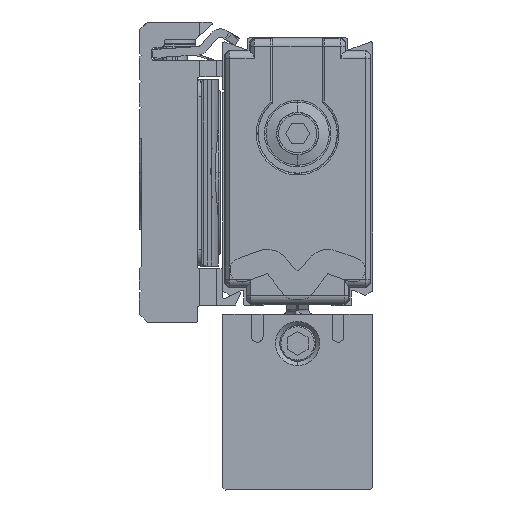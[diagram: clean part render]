
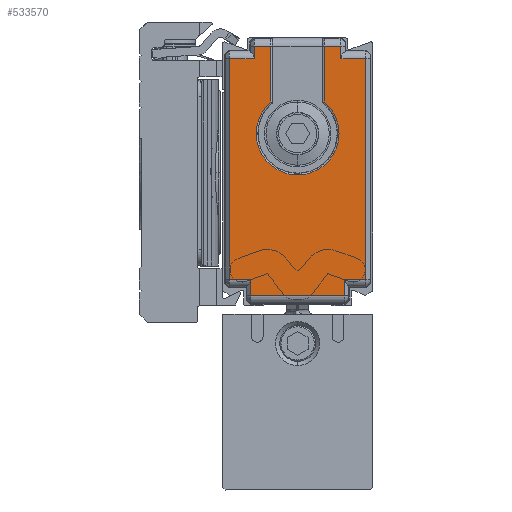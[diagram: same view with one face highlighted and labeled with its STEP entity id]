
A CAD part, left-side view. The second image highlights one B-rep face of the part: STEP entity #533570.
In plain terms, the highlighted planar face has unit normal (-1, 0, 0) as drawn and (0, 0, -1) by its records, which use the part's own axes.
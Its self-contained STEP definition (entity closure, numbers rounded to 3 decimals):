
#531480=CARTESIAN_POINT('',(29.865,18.802,-494.5));
#531490=VERTEX_POINT('',#531480);
#531940=CARTESIAN_POINT('',(3.435,18.802,-494.5));
#531950=VERTEX_POINT('',#531940);
#532000=CARTESIAN_POINT('',(3.435,18.802,-494.5));
#532010=CARTESIAN_POINT('',(7.84,18.802,-494.5));
#532020=CARTESIAN_POINT('',(12.245,18.802,-494.5));
#532030=CARTESIAN_POINT('',(21.055,18.802,-494.5));
#532040=CARTESIAN_POINT('',(25.46,18.802,-494.5));
#532050=CARTESIAN_POINT('',(29.865,18.802,-494.5));
#532060=B_SPLINE_CURVE_WITH_KNOTS('',3,(#532000,#532010,#532020,#532030,
#532040,#532050),.UNSPECIFIED.,.F.,.F.,(4,2,4),(24.334,
37.549,50.764),.UNSPECIFIED.);
#532070=EDGE_CURVE('',#531950,#531490,#532060,.T.);
#532190=CARTESIAN_POINT('',(16.65,27.,-494.5));
#532200=DIRECTION('',(0.,0.,1.));
#532210=DIRECTION('',(0.,1.,0.));
#532220=AXIS2_PLACEMENT_3D('',#532190,#532200,#532210);
#532230=PLANE('',#532220);
#532240=CARTESIAN_POINT('',(20.9,27.,-494.5));
#532250=DIRECTION('',(0.,0.,-1.));
#532260=DIRECTION('',(0.,1.,0.));
#532270=AXIS2_PLACEMENT_3D('',#532240,#532250,#532260);
#532280=CIRCLE('',#532270,4.974);
#532290=CARTESIAN_POINT('',(24.688,23.776,-494.5));
#532300=VERTEX_POINT('',#532290);
#532310=CARTESIAN_POINT('',(24.688,30.224,-494.5));
#532320=VERTEX_POINT('',#532310);
#532330=EDGE_CURVE('',#532300,#532320,#532280,.T.);
#532340=ORIENTED_EDGE('',*,*,#532330,.F.);
#532350=CARTESIAN_POINT('',(0.15,30.224,-494.5));
#532360=DIRECTION('',(1.,0.,0.));
#532370=VECTOR('',#532360,1.);
#532380=LINE('',#532350,#532370);
#532390=CARTESIAN_POINT('',(31.365,30.224,-494.5));
#532400=VERTEX_POINT('',#532390);
#532410=EDGE_CURVE('',#532320,#532400,#532380,.T.);
#532420=ORIENTED_EDGE('',*,*,#532410,.F.);
#532430=CARTESIAN_POINT('',(31.365,35.75,-494.5));
#532440=DIRECTION('',(0.,-1.,0.));
#532450=VECTOR('',#532440,1.);
#532460=LINE('',#532430,#532450);
#532470=CARTESIAN_POINT('',(31.365,32.198,-494.5));
#532480=VERTEX_POINT('',#532470);
#532490=EDGE_CURVE('',#532480,#532400,#532460,.T.);
#532500=ORIENTED_EDGE('',*,*,#532490,.T.);
#532510=CARTESIAN_POINT('',(29.365,32.198,-494.5));
#532520=CARTESIAN_POINT('',(29.782,32.198,-494.5));
#532530=CARTESIAN_POINT('',(30.198,32.198,-494.5));
#532540=CARTESIAN_POINT('',(30.865,32.198,-494.5));
#532550=CARTESIAN_POINT('',(31.115,32.198,-494.5));
#532560=CARTESIAN_POINT('',(31.365,32.198,-494.5));
#532570=B_SPLINE_CURVE_WITH_KNOTS('',3,(#532510,#532520,#532530,#532540,
#532550,#532560),.UNSPECIFIED.,.F.,.F.,(4,2,4),(37.587,
38.837,39.587),.UNSPECIFIED.);
#532580=CARTESIAN_POINT('',(29.865,32.198,-494.5));
#532590=VERTEX_POINT('',#532580);
#532600=EDGE_CURVE('',#532590,#532480,#532570,.T.);
#532610=ORIENTED_EDGE('',*,*,#532600,.T.);
#532620=CARTESIAN_POINT('',(29.865,35.75,-494.5));
#532630=DIRECTION('',(0.,1.,0.));
#532640=VECTOR('',#532630,1.);
#532650=LINE('',#532620,#532640);
#532660=CARTESIAN_POINT('',(29.865,35.198,-494.5));
#532670=VERTEX_POINT('',#532660);
#532680=EDGE_CURVE('',#532590,#532670,#532650,.T.);
#532690=ORIENTED_EDGE('',*,*,#532680,.F.);
#532700=CARTESIAN_POINT('',(3.435,35.198,-494.5));
#532710=CARTESIAN_POINT('',(7.84,35.198,-494.5));
#532720=CARTESIAN_POINT('',(12.245,35.198,-494.5));
#532730=CARTESIAN_POINT('',(21.055,35.198,-494.5));
#532740=CARTESIAN_POINT('',(25.46,35.198,-494.5));
#532750=CARTESIAN_POINT('',(29.865,35.198,-494.5));
#532760=B_SPLINE_CURVE_WITH_KNOTS('',3,(#532700,#532710,#532720,#532730,
#532740,#532750),.UNSPECIFIED.,.F.,.F.,(4,2,4),(24.308,
37.523,50.738),.UNSPECIFIED.);
#532770=CARTESIAN_POINT('',(3.435,35.198,-494.5));
#532780=VERTEX_POINT('',#532770);
#532790=EDGE_CURVE('',#532780,#532670,#532760,.T.);
#532800=ORIENTED_EDGE('',*,*,#532790,.T.);
#532810=CARTESIAN_POINT('',(3.435,35.75,-494.5));
#532820=DIRECTION('',(0.,1.,0.));
#532830=VECTOR('',#532820,1.);
#532840=LINE('',#532810,#532830);
#532850=CARTESIAN_POINT('',(3.435,32.648,-494.5));
#532860=VERTEX_POINT('',#532850);
#532870=EDGE_CURVE('',#532860,#532780,#532840,.T.);
#532880=ORIENTED_EDGE('',*,*,#532870,.T.);
#532890=CARTESIAN_POINT('',(3.935,32.648,-494.5));
#532900=CARTESIAN_POINT('',(3.435,32.648,-494.5));
#532910=CARTESIAN_POINT('',(2.935,32.648,-494.5));
#532920=CARTESIAN_POINT('',(2.102,32.648,-494.5));
#532930=CARTESIAN_POINT('',(1.768,32.648,-494.5));
#532940=CARTESIAN_POINT('',(1.435,32.648,-494.5));
#532950=B_SPLINE_CURVE_WITH_KNOTS('',3,(#532890,#532900,#532910,#532920,
#532930,#532940),.UNSPECIFIED.,.F.,.F.,(4,2,4),(37.084,
38.584,39.584),.UNSPECIFIED.);
#532960=CARTESIAN_POINT('',(1.435,32.648,-494.5));
#532970=VERTEX_POINT('',#532960);
#532980=EDGE_CURVE('',#532860,#532970,#532950,.T.);
#532990=ORIENTED_EDGE('',*,*,#532980,.F.);
#533000=CARTESIAN_POINT('',(1.435,35.75,-494.5));
#533010=DIRECTION('',(0.,1.,0.));
#533020=VECTOR('',#533010,1.);
#533030=LINE('',#533000,#533020);
#533040=CARTESIAN_POINT('',(1.435,21.352,-494.5));
#533050=VERTEX_POINT('',#533040);
#533060=EDGE_CURVE('',#533050,#532970,#533030,.T.);
#533070=ORIENTED_EDGE('',*,*,#533060,.T.);
#533080=CARTESIAN_POINT('',(3.935,21.352,-494.5));
#533090=CARTESIAN_POINT('',(3.435,21.352,-494.5));
#533100=CARTESIAN_POINT('',(2.935,21.352,-494.5));
#533110=CARTESIAN_POINT('',(2.102,21.352,-494.5));
#533120=CARTESIAN_POINT('',(1.768,21.352,-494.5));
#533130=CARTESIAN_POINT('',(1.435,21.352,-494.5));
#533140=B_SPLINE_CURVE_WITH_KNOTS('',3,(#533080,#533090,#533100,#533110,
#533120,#533130),.UNSPECIFIED.,.F.,.F.,(4,2,4),(37.084,
38.584,39.584),.UNSPECIFIED.);
#533150=CARTESIAN_POINT('',(3.435,21.352,-494.5));
#533160=VERTEX_POINT('',#533150);
#533170=EDGE_CURVE('',#533160,#533050,#533140,.T.);
#533180=ORIENTED_EDGE('',*,*,#533170,.T.);
#533190=CARTESIAN_POINT('',(3.435,35.75,-494.5));
#533200=DIRECTION('',(0.,-1.,0.));
#533210=VECTOR('',#533200,1.);
#533220=LINE('',#533190,#533210);
#533230=EDGE_CURVE('',#533160,#531950,#533220,.T.);
#533240=ORIENTED_EDGE('',*,*,#533230,.F.);
#533250=ORIENTED_EDGE('',*,*,#532070,.F.);
#533260=CARTESIAN_POINT('',(29.865,35.75,-494.5));
#533270=DIRECTION('',(0.,-1.,0.));
#533280=VECTOR('',#533270,1.);
#533290=LINE('',#533260,#533280);
#533300=CARTESIAN_POINT('',(29.865,21.802,-494.5));
#533310=VERTEX_POINT('',#533300);
#533320=EDGE_CURVE('',#533310,#531490,#533290,.T.);
#533330=ORIENTED_EDGE('',*,*,#533320,.T.);
#533340=CARTESIAN_POINT('',(29.365,21.802,-494.5));
#533350=CARTESIAN_POINT('',(29.782,21.802,-494.5));
#533360=CARTESIAN_POINT('',(30.198,21.802,-494.5));
#533370=CARTESIAN_POINT('',(30.865,21.802,-494.5));
#533380=CARTESIAN_POINT('',(31.115,21.802,-494.5));
#533390=CARTESIAN_POINT('',(31.365,21.802,-494.5));
#533400=B_SPLINE_CURVE_WITH_KNOTS('',3,(#533340,#533350,#533360,#533370,
#533380,#533390),.UNSPECIFIED.,.F.,.F.,(4,2,4),(37.587,
38.837,39.587),.UNSPECIFIED.);
#533410=CARTESIAN_POINT('',(31.365,21.802,-494.5));
#533420=VERTEX_POINT('',#533410);
#533430=EDGE_CURVE('',#533310,#533420,#533400,.T.);
#533440=ORIENTED_EDGE('',*,*,#533430,.F.);
#533450=CARTESIAN_POINT('',(31.365,23.776,-494.5));
#533460=VERTEX_POINT('',#533450);
#533470=EDGE_CURVE('',#533460,#533420,#532460,.T.);
#533480=ORIENTED_EDGE('',*,*,#533470,.T.);
#533490=CARTESIAN_POINT('',(0.15,23.776,-494.5));
#533500=DIRECTION('',(-1.,0.,0.));
#533510=VECTOR('',#533500,1.);
#533520=LINE('',#533490,#533510);
#533530=EDGE_CURVE('',#533460,#532300,#533520,.T.);
#533540=ORIENTED_EDGE('',*,*,#533530,.F.);
#533550=EDGE_LOOP('',(#533540,#533480,#533440,#533330,#533250,#533240,
#533180,#533070,#532990,#532880,#532800,#532690,#532610,#532500,#532420,
#532340));
#533560=FACE_OUTER_BOUND('',#533550,.T.);
#533570=ADVANCED_FACE('',(#533560),#532230,.F.);
